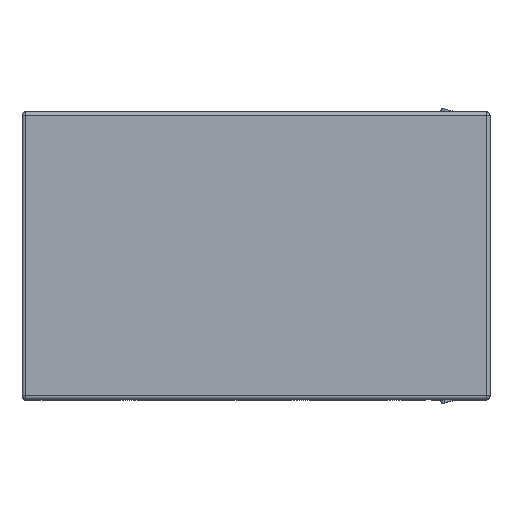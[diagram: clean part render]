
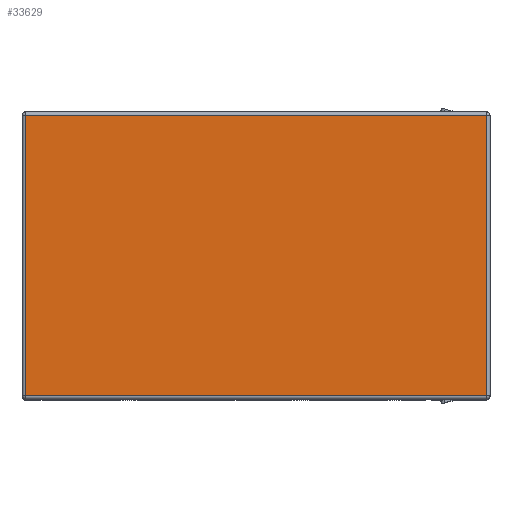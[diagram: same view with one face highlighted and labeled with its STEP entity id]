
A CAD part, top view. The second image highlights one B-rep face of the part: STEP entity #33629.
In plain terms, the highlighted planar face has unit normal (0, 0, 1).
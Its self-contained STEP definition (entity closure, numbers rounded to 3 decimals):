
#6778=DIRECTION('',(-1.,0.,0.));
#6779=VECTOR('',#6778,27.6);
#6780=CARTESIAN_POINT('',(27.51,8.39,14.6));
#6781=LINE('',#6780,#6779);
#6790=DIRECTION('',(1.,0.,0.));
#6791=VECTOR('',#6790,27.6);
#6792=CARTESIAN_POINT('',(-0.09,-8.41,14.6));
#6793=LINE('',#6792,#6791);
#6813=DIRECTION('',(0.,-1.,0.));
#6814=VECTOR('',#6813,16.8);
#6815=CARTESIAN_POINT('',(-0.09,8.39,14.6));
#6816=LINE('',#6815,#6814);
#6832=DIRECTION('',(0.,1.,0.));
#6833=VECTOR('',#6832,16.8);
#6834=CARTESIAN_POINT('',(27.51,-8.41,14.6));
#6835=LINE('',#6834,#6833);
#23245=CARTESIAN_POINT('',(27.51,-8.41,14.6));
#23246=VERTEX_POINT('',#23245);
#23247=CARTESIAN_POINT('',(-0.09,-8.41,14.6));
#23248=VERTEX_POINT('',#23247);
#23249=CARTESIAN_POINT('',(-0.09,8.39,14.6));
#23250=VERTEX_POINT('',#23249);
#23251=CARTESIAN_POINT('',(27.51,8.39,14.6));
#23252=VERTEX_POINT('',#23251);
#33615=CARTESIAN_POINT('',(13.71,-0.01,14.6));
#33616=DIRECTION('',(0.,0.,1.));
#33617=DIRECTION('',(-1.,0.,0.));
#33618=AXIS2_PLACEMENT_3D('',#33615,#33616,#33617);
#33619=PLANE('',#33618);
#33621=ORIENTED_EDGE('',*,*,#33620,.F.);
#33623=ORIENTED_EDGE('',*,*,#33622,.F.);
#33624=ORIENTED_EDGE('',*,*,#33606,.F.);
#33626=ORIENTED_EDGE('',*,*,#33625,.F.);
#33627=EDGE_LOOP('',(#33621,#33623,#33624,#33626));
#33628=FACE_OUTER_BOUND('',#33627,.F.);
#33629=ADVANCED_FACE('',(#33628),#33619,.T.);
#33606=EDGE_CURVE('',#23252,#23250,#6781,.T.);
#33620=EDGE_CURVE('',#23248,#23246,#6793,.T.);
#33622=EDGE_CURVE('',#23250,#23248,#6816,.T.);
#33625=EDGE_CURVE('',#23246,#23252,#6835,.T.);
